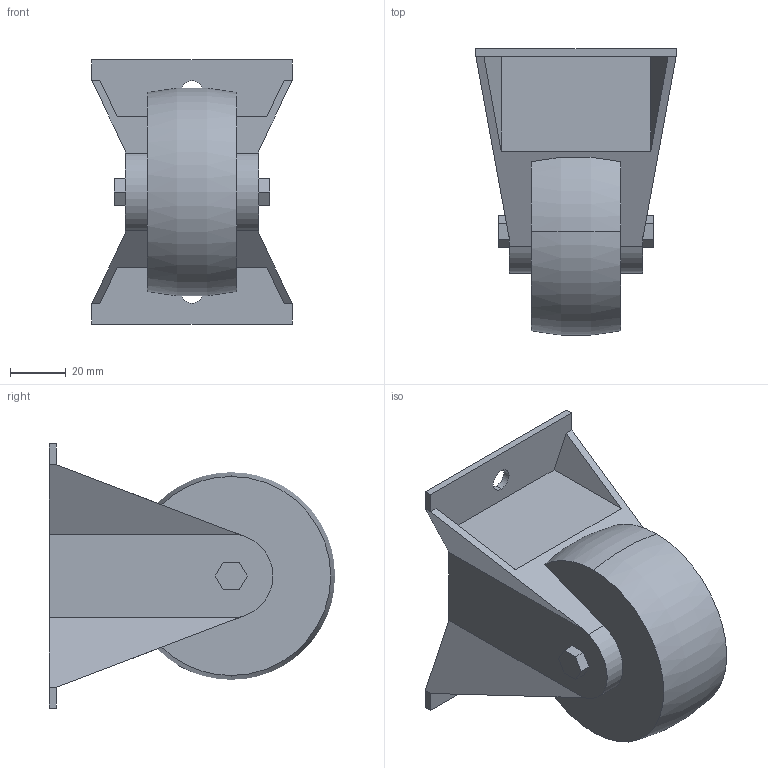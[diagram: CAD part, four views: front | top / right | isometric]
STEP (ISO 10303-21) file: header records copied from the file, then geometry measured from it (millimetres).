
FILE_DESCRIPTION (( 'STEP AP214' ), '1' );
FILE_NAME ('SK-75.step', '2024-02-19T02:01:16', ( 'catia' ), ( 'HP Inc.' ), 'SwSTEP 2.0', 'SolidWorks 2021', '' );
FILE_SCHEMA (( 'AUTOMOTIVE_DESIGN' ));
Length unit declared in the file: millimetre
Products named in the file (1): SK-75
Bounding box: 72 x 102.81 x 95 mm (x, y, z)
Volume: 266680.6 mm3; surface area: 34878.5 mm2
Topology: 1 solids, 1 shells, 48 faces, 128 edges, 84 vertices
Faces by surface type: plane 39, cylinder 6, torus 3
Entity records: 1540 total; most frequent: CARTESIAN_POINT 283, ORIENTED_EDGE 256, DIRECTION 244, EDGE_CURVE 128, LINE 106, VECTOR 106, VERTEX_POINT 84, AXIS2_PLACEMENT_3D 69
